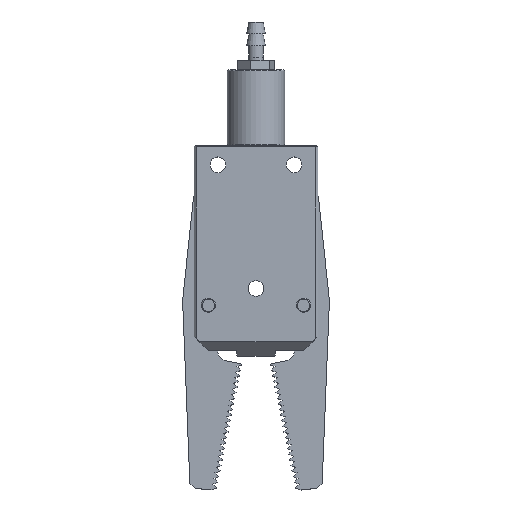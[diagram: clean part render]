
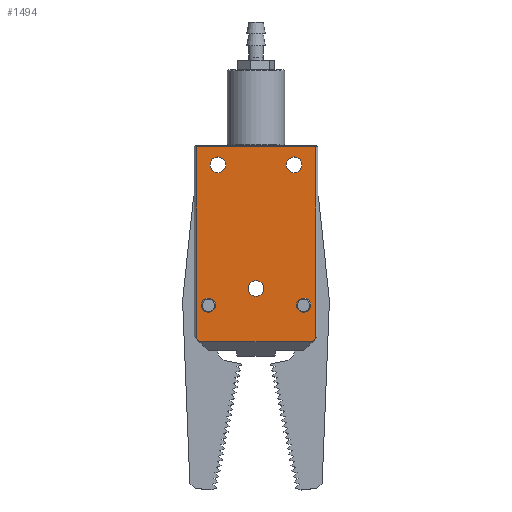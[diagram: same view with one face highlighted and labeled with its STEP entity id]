
A CAD part, top view. The second image highlights one B-rep face of the part: STEP entity #1494.
In plain terms, the highlighted planar face has unit normal (0, 0, 1).
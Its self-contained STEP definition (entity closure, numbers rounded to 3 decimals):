
#1494=ADVANCED_FACE('',(#10075,#10076,#10077,#10078,#10079,#10080),#2872,
 .F.);
#2872=PLANE('',#22325);
#4291=LINE('',#30043,#7210);
#4292=LINE('',#30046,#7211);
#4293=LINE('',#30048,#7212);
#4294=LINE('',#30050,#7213);
#4295=LINE('',#30052,#7214);
#4296=LINE('',#30054,#7215);
#7210=VECTOR('',#23920,1.);
#7211=VECTOR('',#23921,1.);
#7212=VECTOR('',#23922,1.);
#7213=VECTOR('',#23923,1.);
#7214=VECTOR('',#23924,1.);
#7215=VECTOR('',#23925,1.);
#10075=FACE_BOUND('',#10154,.T.);
#10076=FACE_BOUND('',#10155,.T.);
#10077=FACE_BOUND('',#10156,.T.);
#10078=FACE_BOUND('',#10157,.T.);
#10079=FACE_BOUND('',#10158,.T.);
#10080=FACE_BOUND('',#10159,.T.);
#10154=EDGE_LOOP('',(#11697,#11698,#11699,#11700,#11701,#11702));
#10155=EDGE_LOOP('',(#11703));
#10156=EDGE_LOOP('',(#11704));
#10157=EDGE_LOOP('',(#11705));
#10158=EDGE_LOOP('',(#11706));
#10159=EDGE_LOOP('',(#11707));
#11697=ORIENTED_EDGE('',*,*,#19318,.F.);
#11698=ORIENTED_EDGE('',*,*,#19319,.F.);
#11699=ORIENTED_EDGE('',*,*,#19320,.F.);
#11700=ORIENTED_EDGE('',*,*,#19321,.F.);
#11701=ORIENTED_EDGE('',*,*,#19322,.F.);
#11702=ORIENTED_EDGE('',*,*,#19323,.F.);
#11703=ORIENTED_EDGE('',*,*,#19226,.F.);
#11704=ORIENTED_EDGE('',*,*,#19228,.F.);
#11705=ORIENTED_EDGE('',*,*,#19206,.T.);
#11706=ORIENTED_EDGE('',*,*,#19208,.T.);
#11707=ORIENTED_EDGE('',*,*,#19210,.T.);
#17560=VERTEX_POINT('',#29572);
#17562=VERTEX_POINT('',#29577);
#17564=VERTEX_POINT('',#29582);
#17580=VERTEX_POINT('',#29660);
#17582=VERTEX_POINT('',#29665);
#17654=VERTEX_POINT('',#30044);
#17655=VERTEX_POINT('',#30045);
#17656=VERTEX_POINT('',#30047);
#17657=VERTEX_POINT('',#30049);
#17658=VERTEX_POINT('',#30051);
#17659=VERTEX_POINT('',#30053);
#19206=EDGE_CURVE('',#17560,#17560,#22207,.T.);
#19208=EDGE_CURVE('',#17562,#17562,#22209,.T.);
#19210=EDGE_CURVE('',#17564,#17564,#22211,.T.);
#19226=EDGE_CURVE('',#17580,#17580,#22217,.T.);
#19228=EDGE_CURVE('',#17582,#17582,#22219,.T.);
#19318=EDGE_CURVE('',#17654,#17655,#4291,.T.);
#19319=EDGE_CURVE('',#17656,#17654,#4292,.T.);
#19320=EDGE_CURVE('',#17657,#17656,#4293,.T.);
#19321=EDGE_CURVE('',#17658,#17657,#4294,.T.);
#19322=EDGE_CURVE('',#17659,#17658,#4295,.T.);
#19323=EDGE_CURVE('',#17655,#17659,#4296,.T.);
#22207=CIRCLE('',#22275,1.65);
#22209=CIRCLE('',#22278,1.65);
#22211=CIRCLE('',#22281,1.65);
#22217=CIRCLE('',#22291,1.5);
#22219=CIRCLE('',#22294,1.5);
#22275=AXIS2_PLACEMENT_3D('',#29571,#23744,#23745);
#22278=AXIS2_PLACEMENT_3D('',#29576,#23750,#23751);
#22281=AXIS2_PLACEMENT_3D('',#29581,#23756,#23757);
#22291=AXIS2_PLACEMENT_3D('',#29659,#23778,#23779);
#22294=AXIS2_PLACEMENT_3D('',#29664,#23784,#23785);
#22325=AXIS2_PLACEMENT_3D('',#30055,#23926,#23927);
#23744=DIRECTION('',(0.,0.,-1.));
#23745=DIRECTION('',(0.,1.,0.));
#23750=DIRECTION('',(0.,0.,-1.));
#23751=DIRECTION('',(0.,1.,0.));
#23756=DIRECTION('',(0.,0.,-1.));
#23757=DIRECTION('',(0.,1.,0.));
#23778=DIRECTION('',(0.,0.,1.));
#23779=DIRECTION('',(0.,1.,0.));
#23784=DIRECTION('',(0.,0.,1.));
#23785=DIRECTION('',(0.,1.,0.));
#23920=DIRECTION('',(-1.,0.,0.));
#23921=DIRECTION('',(-0.707,-0.707,0.));
#23922=DIRECTION('',(0.,-1.,0.));
#23923=DIRECTION('',(1.,0.,0.));
#23924=DIRECTION('',(0.,1.,0.));
#23925=DIRECTION('',(-0.707,0.707,0.));
#23926=DIRECTION('',(0.,0.,-1.));
#23927=DIRECTION('',(1.,0.,0.));
#29571=CARTESIAN_POINT('',(-1.019,16.579,66.7));
#29572=CARTESIAN_POINT('',(-1.019,18.229,66.7));
#29576=CARTESIAN_POINT('',(-17.019,16.579,66.7));
#29577=CARTESIAN_POINT('',(-17.019,18.229,66.7));
#29581=CARTESIAN_POINT('',(-9.019,-9.421,66.7));
#29582=CARTESIAN_POINT('',(-9.019,-7.771,66.7));
#29659=CARTESIAN_POINT('',(-19.019,-12.921,66.7));
#29660=CARTESIAN_POINT('',(-19.019,-11.421,66.7));
#29664=CARTESIAN_POINT('',(0.981,-12.921,66.7));
#29665=CARTESIAN_POINT('',(0.981,-11.421,66.7));
#30043=CARTESIAN_POINT('',(3.481,-20.571,66.7));
#30044=CARTESIAN_POINT('',(2.831,-20.571,66.7));
#30045=CARTESIAN_POINT('',(-20.869,-20.571,66.7));
#30046=CARTESIAN_POINT('',(3.481,-19.921,66.7));
#30047=CARTESIAN_POINT('',(3.481,-19.921,66.7));
#30048=CARTESIAN_POINT('',(3.481,-20.571,66.7));
#30049=CARTESIAN_POINT('',(3.481,20.379,66.7));
#30050=CARTESIAN_POINT('',(3.481,20.379,66.7));
#30051=CARTESIAN_POINT('',(-21.519,20.379,66.7));
#30052=CARTESIAN_POINT('',(-21.519,-20.571,66.7));
#30053=CARTESIAN_POINT('',(-21.519,-19.921,66.7));
#30054=CARTESIAN_POINT('',(-20.869,-20.571,66.7));
#30055=CARTESIAN_POINT('',(3.481,-20.571,66.7));
